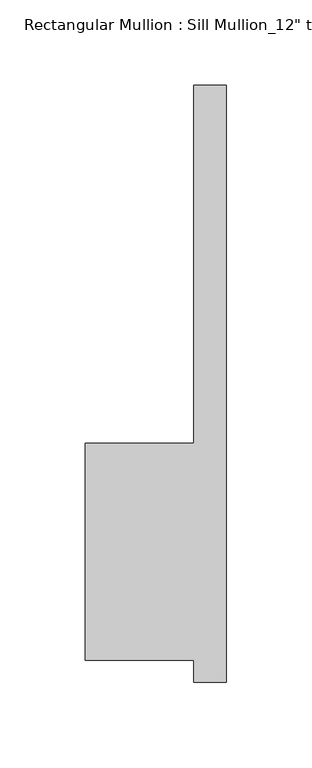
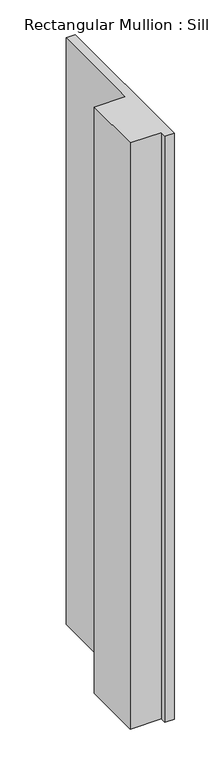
"""IFC4 building model written with IfcOpenShell, lengths in millimetres: member geometry."""

from ifc_helpers import new_model, si_unit, frame, origin, place, context, project, spatial, polyline, outline, extrude, source, transform, mapped, element, save


def member_40baa127(model_context):
    return source(origin(), model_context, "Body", "SweptSolid", [
        extrude(outline(polyline([(-82.55, 50.8), (-19.05, 50.8), (-19.05, 260.35), (0.0, 260.35), (0.0, -88.9), (-19.05, -88.9), (-19.05, -76.2), (-82.55, -76.2), (-82.55, 50.8)])), frame((0.0, 0.0, -1266.6778733), z_axis=(0.0, 0.0, 1.0), x_axis=(1.0, 0.0, 0.0)), (0.0, 0.0, 1.0), 1266.6778733),
    ])


if __name__ == "__main__":
    model = new_model("IFC4")
    model_context = context("Model", 3, world=origin())
    ifc_project = project(units=[si_unit("LENGTHUNIT", "METRE", prefix="MILLI")], contexts=[model_context])
    site = spatial("IfcSite", under=ifc_project)
    building = spatial("IfcBuilding", under=site)
    placement = place(None, origin())
    member_shape = member_40baa127(model_context)
    element("IfcMember", 1, ObjectType="Rectangular Mullion : Sill Mullion_12\" thick wall", at=placement, inside=building, context=model_context, shape_type="MappedRepresentation", body=[
        mapped(member_shape, transform((0.0, 0.0, 0.0), x_axis=(1.0, 0.0, 0.0), y_axis=(0.0, 1.0, 0.0), z_axis=(0.0, 0.0, 1.0))),
    ])
    save(model, "model.ifc")
